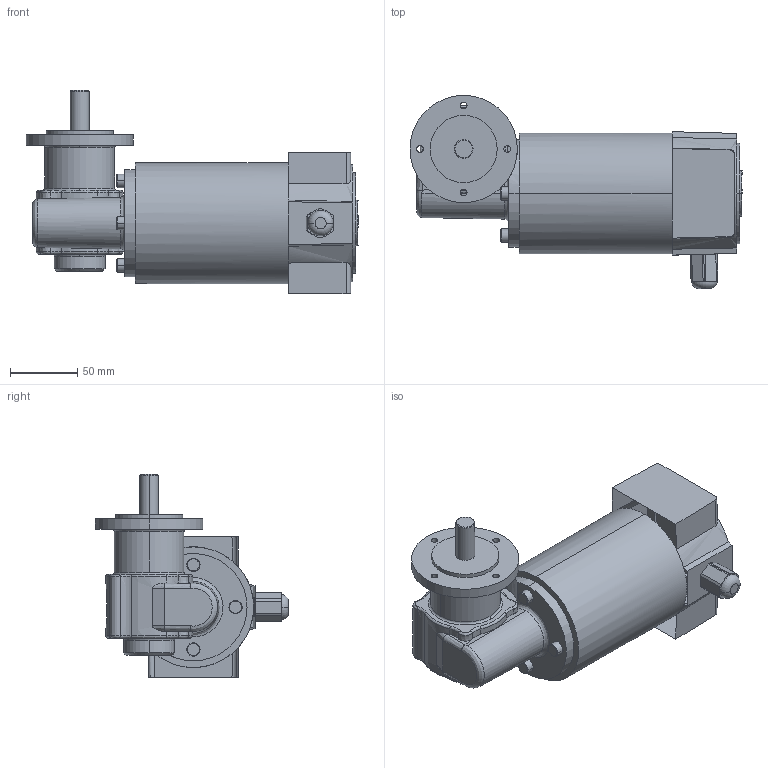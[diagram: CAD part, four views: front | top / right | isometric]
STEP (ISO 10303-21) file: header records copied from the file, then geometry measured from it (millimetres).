
FILE_DESCRIPTION(('OneSpaceDesigner STEP Export'),'2;1');
FILE_NAME('EPG21_GF132.stp','2008-07-10T 8:18:47',(''),(''),'OneSpace Designer STEP processor (Jan. 2003) for AP214(CD)(Solid Model)','OneSpace Designer 12.01D 09-Jul-2004 (C) CoCreate Software GmbH','');
FILE_SCHEMA(('AUTOMOTIVE_DESIGN_CC2 {1 2 10303 214 -1 1 5 1}'));
Length unit declared in the file: millimetre
Products named in the file (2): EPG21_GF132
Assembly tree (1 placements, depth 2):
  EPG21_GF132
    EPG21_GF132
Bounding box: 247.5 x 143.99 x 151.5 mm (x, y, z)
Volume: 1527929.9 mm3; surface area: 104376.4 mm2
Topology: 1 solids, 1 shells, 178 faces, 452 edges, 290 vertices
Faces by surface type: plane 48, cylinder 46, bspline 41, extrusion 25, cone 10, torus 8
Entity records: 15576 total; most frequent: CARTESIAN_POINT 11969, ORIENTED_EDGE 904, DIRECTION 462, EDGE_CURVE 452, VERTEX_POINT 290, EDGE_LOOP 200, FACE_OUTER_BOUND 178, ADVANCED_FACE 178
